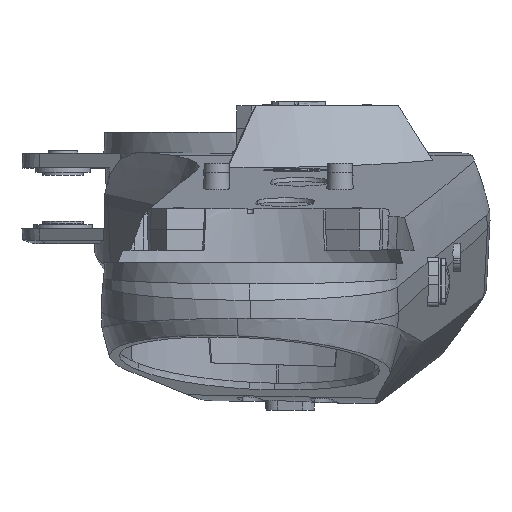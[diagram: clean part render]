
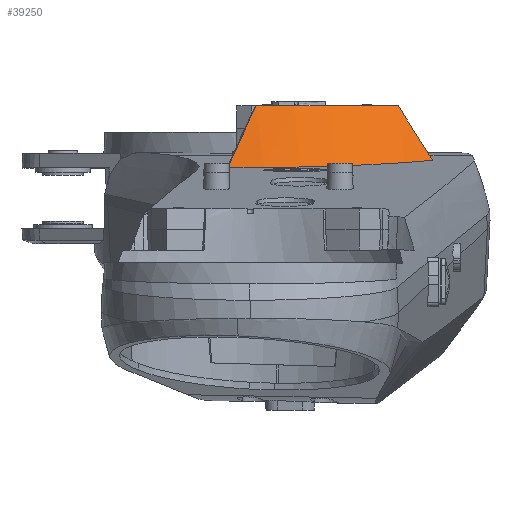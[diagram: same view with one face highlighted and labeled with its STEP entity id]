
A CAD part, top view. The second image highlights one B-rep face of the part: STEP entity #39250.
In plain terms, the highlighted conical face has half-angle 25 degrees and reference radius 315 mm.
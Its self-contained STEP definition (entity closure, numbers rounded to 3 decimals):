
#2060 = FACE_OUTER_BOUND ( 'NONE', #2834, .T. ) ;
#2066 = CONICAL_SURFACE ( 'NONE', #40212, 315., 0.436 ) ;
#2722 = VERTEX_POINT ( 'NONE', #37435 ) ;
#2834 = EDGE_LOOP ( 'NONE', ( #30704, #30703, #30702, #30701 ) ) ;
#5097 =( BOUNDED_CURVE ( )  B_SPLINE_CURVE ( 3, ( #21754, #21752, #21766, #21768 ),
 .UNSPECIFIED., .F., .F. ) 
 B_SPLINE_CURVE_WITH_KNOTS ( ( 4, 4 ),
 ( 5.555, 6.366 ),
 .UNSPECIFIED. ) 
 CURVE ( )  GEOMETRIC_REPRESENTATION_ITEM ( )  RATIONAL_B_SPLINE_CURVE ( ( 1., 0.946, 0.946, 1. ) ) 
 REPRESENTATION_ITEM ( '' )  );
#5100 = B_SPLINE_CURVE_WITH_KNOTS ( 'NONE', 3,
 ( #21756, #21738, #21778, #21780 ),
 .UNSPECIFIED., .F., .F.,
 ( 4, 4 ),
 ( 0., 0.089 ),
 .UNSPECIFIED. ) ;
#5102 = B_SPLINE_CURVE_WITH_KNOTS ( 'NONE', 3,
 ( #21783, #21764, #21796, #21798 ),
 .UNSPECIFIED., .F., .F.,
 ( 4, 4 ),
 ( 0., 0.079 ),
 .UNSPECIFIED. ) ;
#15528 = AXIS2_PLACEMENT_3D ( 'NONE', #21758, #21760, #21762 ) ;
#16679 = DIRECTION ( 'NONE',  ( 1., 0., 0. ) ) ;
#16693 = DIRECTION ( 'NONE',  ( 0., -1., 0. ) ) ;
#16695 = CARTESIAN_POINT ( 'NONE',  ( 350., -82., 780. ) ) ;
#21738 = CARTESIAN_POINT ( 'NONE',  ( 345.472, -106.778, 1106.727 ) ) ;
#21752 = CARTESIAN_POINT ( 'NONE',  ( 502.654, -154.597, 1107.058 ) ) ;
#21754 = CARTESIAN_POINT ( 'NONE',  ( 571.768, -148.143, 1045.38 ) ) ;
#21756 = CARTESIAN_POINT ( 'NONE',  ( 356.774, -82., 1094.927 ) ) ;
#21758 = CARTESIAN_POINT ( 'NONE',  ( 350., -82., 780. ) ) ;
#21760 = DIRECTION ( 'NONE',  ( 0., -1., 0. ) ) ;
#21762 = DIRECTION ( 'NONE',  ( 1., 0., 0. ) ) ;
#21764 = CARTESIAN_POINT ( 'NONE',  ( 543.844, -103.904, 1041.329 ) ) ;
#21766 = CARTESIAN_POINT ( 'NONE',  ( 414.852, -157.674, 1136.465 ) ) ;
#21768 = CARTESIAN_POINT ( 'NONE',  ( 322.581, -156.876, 1128.839 ) ) ;
#21778 = CARTESIAN_POINT ( 'NONE',  ( 334.066, -131.751, 1117.99 ) ) ;
#21780 = CARTESIAN_POINT ( 'NONE',  ( 322.581, -156.876, 1128.839 ) ) ;
#21783 = CARTESIAN_POINT ( 'NONE',  ( 529.629, -82., 1038.763 ) ) ;
#21796 = CARTESIAN_POINT ( 'NONE',  ( 557.878, -125.962, 1043.508 ) ) ;
#21798 = CARTESIAN_POINT ( 'NONE',  ( 571.768, -148.143, 1045.38 ) ) ;
#21960 = CARTESIAN_POINT ( 'NONE',  ( 356.774, -82., 1094.927 ) ) ;
#22226 = CARTESIAN_POINT ( 'NONE',  ( 322.581, -156.876, 1128.839 ) ) ;
#27346 = VERTEX_POINT ( 'NONE', #39394 ) ;
#27905 = EDGE_CURVE ( 'NONE', #2722, #32326, #30346, .T. ) ;
#27906 = EDGE_CURVE ( 'NONE', #27346, #32462, #5097, .T. ) ;
#27907 = EDGE_CURVE ( 'NONE', #32326, #32462, #5100, .T. ) ;
#27910 = EDGE_CURVE ( 'NONE', #2722, #27346, #5102, .T. ) ;
#30346 = CIRCLE ( 'NONE', #15528, 315. ) ;
#30701 = ORIENTED_EDGE ( 'NONE', *, *, #27905, .T. ) ;
#30702 = ORIENTED_EDGE ( 'NONE', *, *, #27910, .F. ) ;
#30703 = ORIENTED_EDGE ( 'NONE', *, *, #27906, .F. ) ;
#30704 = ORIENTED_EDGE ( 'NONE', *, *, #27907, .T. ) ;
#32326 = VERTEX_POINT ( 'NONE', #21960 ) ;
#32462 = VERTEX_POINT ( 'NONE', #22226 ) ;
#37435 = CARTESIAN_POINT ( 'NONE',  ( 529.629, -82., 1038.763 ) ) ;
#39250 = ADVANCED_FACE ( 'NONE', ( #2060 ), #2066, .T. ) ;
#39394 = CARTESIAN_POINT ( 'NONE',  ( 571.768, -148.143, 1045.38 ) ) ;
#40212 = AXIS2_PLACEMENT_3D ( 'NONE', #16695, #16693, #16679 ) ;
